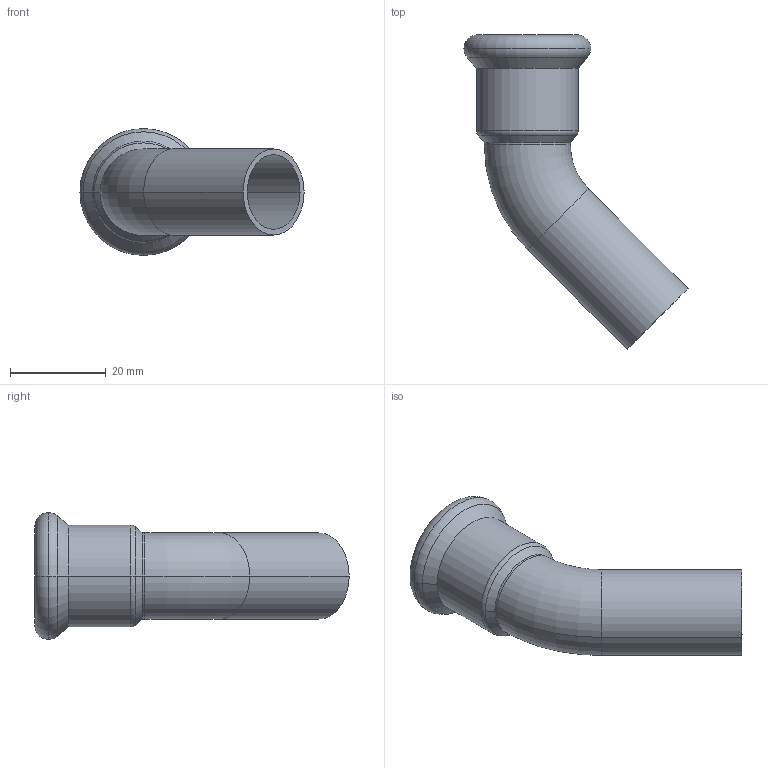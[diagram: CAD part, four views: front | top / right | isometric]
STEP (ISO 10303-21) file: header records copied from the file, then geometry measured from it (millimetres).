
FILE_DESCRIPTION(('CoCreate Modeling STEP Export'),'2;1');
FILE_NAME('C1412 18x18.stp','2014-11-11T16:41:02',(''),(''),'CoCreate Modeling STEP processor for AP214 (Solid Model)','CoCreate Modeling 17.00A 17-Jun-2010 (C) Parametric Technology GmbH','');
FILE_SCHEMA(('AUTOMOTIVE_DESIGN { 1 0 10303 214 1 1 1 1 }'));
Length unit declared in the file: millimetre
Products named in the file (2): C1412_18x18
Assembly tree (1 placements, depth 2):
  C1412_18x18
    C1412_18x18
Bounding box: 46.84 x 65.69 x 26.5 mm (x, y, z)
Volume: 6065.1 mm3; surface area: 8301.2 mm2
Topology: 1 solids, 1 shells, 32 faces, 68 edges, 40 vertices
Faces by surface type: cylinder 14, torus 10, plane 4, cone 4
Entity records: 748 total; most frequent: ORIENTED_EDGE 136, DIRECTION 116, CARTESIAN_POINT 107, EDGE_CURVE 68, AXIS2_PLACEMENT_3D 49, VERTEX_POINT 40, EDGE_LOOP 36, FACE_OUTER_BOUND 32
